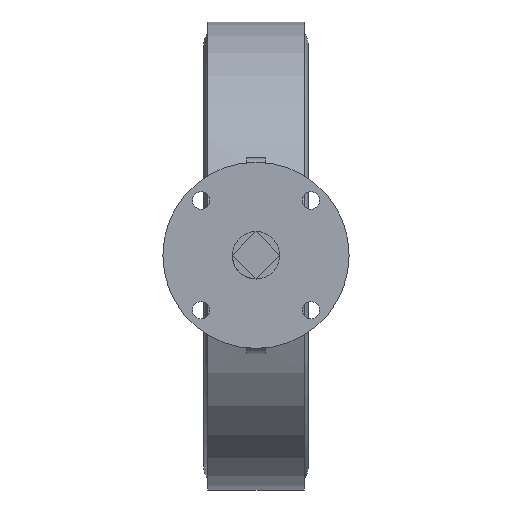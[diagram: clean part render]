
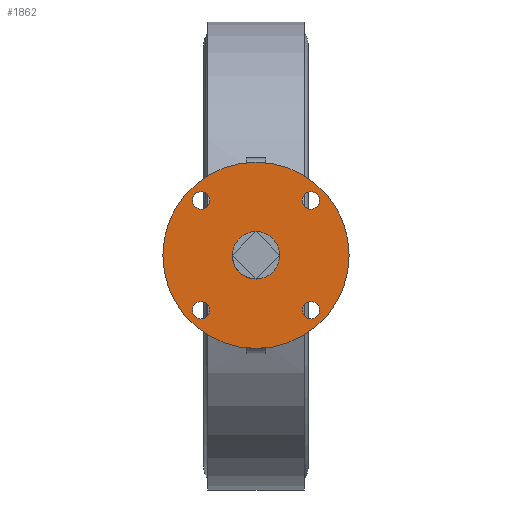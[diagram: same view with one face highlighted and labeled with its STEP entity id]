
A CAD part, top view. The second image highlights one B-rep face of the part: STEP entity #1862.
In plain terms, the highlighted planar face has unit normal (0, 0, 1).
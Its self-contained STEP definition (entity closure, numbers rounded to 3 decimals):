
#1862=ADVANCED_FACE('',(#5072,#5074,#5076,#5078,#5080,#5082),#5084,.T.);
#5072=FACE_BOUND('',#5073,.T.);
#5073=EDGE_LOOP('',(#8244));
#5074=FACE_BOUND('',#5075,.T.);
#5075=EDGE_LOOP('',(#8245));
#5076=FACE_BOUND('',#5077,.T.);
#5077=EDGE_LOOP('',(#8246));
#5078=FACE_BOUND('',#5079,.T.);
#5079=EDGE_LOOP('',(#8247));
#5080=FACE_BOUND('',#5081,.T.);
#5081=EDGE_LOOP('',(#8248));
#5082=FACE_BOUND('',#5083,.T.);
#5083=EDGE_LOOP('',(#8249));
#5084=PLANE('',#5085);
#5085=AXIS2_PLACEMENT_3D('',#5086,#5087,#5088);
#5086=CARTESIAN_POINT('',(0.,0.,310.));
#5087=DIRECTION('',(0.,0.,1.));
#5088=DIRECTION('',(0.,-1.,0.));
#8244=ORIENTED_EDGE('',*,*,#10106,.T.);
#8245=ORIENTED_EDGE('',*,*,#10287,.T.);
#8246=ORIENTED_EDGE('',*,*,#10107,.T.);
#8247=ORIENTED_EDGE('',*,*,#10108,.T.);
#8248=ORIENTED_EDGE('',*,*,#10109,.T.);
#8249=ORIENTED_EDGE('',*,*,#10110,.T.);
#10106=EDGE_CURVE('',#11611,#11611,#11612,.T.);
#10107=EDGE_CURVE('',#11613,#11613,#11614,.F.);
#10108=EDGE_CURVE('',#11615,#11615,#11616,.F.);
#10109=EDGE_CURVE('',#11617,#11617,#11618,.F.);
#10110=EDGE_CURVE('',#11619,#11619,#11620,.F.);
#10287=EDGE_CURVE('',#11897,#11897,#11898,.F.);
#11611=VERTEX_POINT('',#14958);
#11612=CIRCLE('',#14959,75.);
#11613=VERTEX_POINT('',#14963);
#11614=CIRCLE('',#14964,7.);
#11615=VERTEX_POINT('',#14968);
#11616=CIRCLE('',#14969,7.);
#11617=VERTEX_POINT('',#14973);
#11618=CIRCLE('',#14974,7.);
#11619=VERTEX_POINT('',#14978);
#11620=CIRCLE('',#14979,7.);
#11897=VERTEX_POINT('',#16042);
#11898=CIRCLE('',#16043,19.092);
#14958=CARTESIAN_POINT('',(-75.,0.,310.));
#14959=AXIS2_PLACEMENT_3D('',#14960,#14961,#14962);
#14960=CARTESIAN_POINT('',(0.,0.,310.));
#14961=DIRECTION('',(0.,0.,1.));
#14962=DIRECTION('',(-1.,0.,0.));
#14963=CARTESIAN_POINT('',(-51.194,-44.194,310.));
#14964=AXIS2_PLACEMENT_3D('',#14965,#14966,#14967);
#14965=CARTESIAN_POINT('',(-44.194,-44.194,310.));
#14966=DIRECTION('',(0.,0.,1.));
#14967=DIRECTION('',(-1.,0.,0.));
#14968=CARTESIAN_POINT('',(44.194,-51.194,310.));
#14969=AXIS2_PLACEMENT_3D('',#14970,#14971,#14972);
#14970=CARTESIAN_POINT('',(44.194,-44.194,310.));
#14971=DIRECTION('',(0.,0.,1.));
#14972=DIRECTION('',(0.,-1.,0.));
#14973=CARTESIAN_POINT('',(51.194,44.194,310.));
#14974=AXIS2_PLACEMENT_3D('',#14975,#14976,#14977);
#14975=CARTESIAN_POINT('',(44.194,44.194,310.));
#14976=DIRECTION('',(0.,0.,1.));
#14977=DIRECTION('',(1.,0.,0.));
#14978=CARTESIAN_POINT('',(-44.194,51.194,310.));
#14979=AXIS2_PLACEMENT_3D('',#14980,#14981,#14982);
#14980=CARTESIAN_POINT('',(-44.194,44.194,310.));
#14981=DIRECTION('',(0.,0.,1.));
#14982=DIRECTION('',(0.,1.,0.));
#16042=CARTESIAN_POINT('',(0.,-19.092,310.));
#16043=AXIS2_PLACEMENT_3D('',#16044,#16045,#16046);
#16044=CARTESIAN_POINT('',(0.,0.,310.));
#16045=DIRECTION('',(0.,0.,1.));
#16046=DIRECTION('',(0.,-1.,0.));
